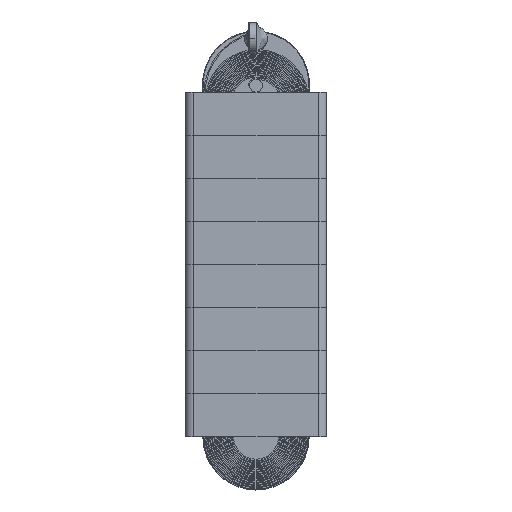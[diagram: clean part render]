
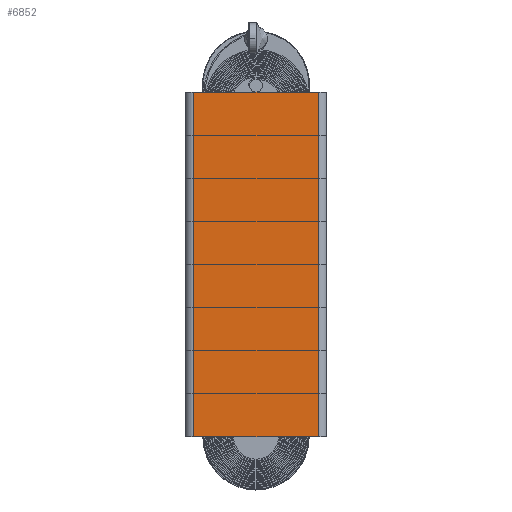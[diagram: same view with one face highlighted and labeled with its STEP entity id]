
A CAD part, top view. The second image highlights one B-rep face of the part: STEP entity #6852.
In plain terms, the highlighted planar face has unit normal (0, 0, 1).
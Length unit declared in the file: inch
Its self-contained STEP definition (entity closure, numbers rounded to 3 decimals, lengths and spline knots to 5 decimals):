
#550 = VERTEX_POINT ( 'NONE', #15831 ) ;
#1034 = DIRECTION ( 'NONE',  ( 1., 0., 0. ) ) ;
#1240 = CARTESIAN_POINT ( 'NONE',  ( -1.994, -5.5, 1.839 ) ) ;
#1337 = PLANE ( 'NONE',  #10426 ) ;
#1922 = CARTESIAN_POINT ( 'NONE',  ( 1.994, -5.5, 1.839 ) ) ;
#2125 = VECTOR ( 'NONE', #28513, 39.37008 ) ;
#2209 = EDGE_CURVE ( 'NONE', #13538, #7280, #14192, .T. ) ;
#3744 = CARTESIAN_POINT ( 'NONE',  ( -1.994, -5.5, 1.839 ) ) ;
#6116 = DIRECTION ( 'NONE',  ( 0., 0., 1. ) ) ;
#6852 = ADVANCED_FACE ( 'NONE', ( #26791 ), #1337, .T. ) ;
#7280 = VERTEX_POINT ( 'NONE', #18082 ) ;
#10426 = AXIS2_PLACEMENT_3D ( 'NONE', #3744, #6116, #1034 ) ;
#10674 = LINE ( 'NONE', #1240, #26796 ) ;
#11604 = EDGE_CURVE ( 'NONE', #25637, #550, #14858, .T. ) ;
#13538 = VERTEX_POINT ( 'NONE', #15164 ) ;
#13899 = DIRECTION ( 'NONE',  ( 0., 1., 0. ) ) ;
#14012 = VECTOR ( 'NONE', #29551, 39.37008 ) ;
#14192 = LINE ( 'NONE', #18382, #19039 ) ;
#14858 = LINE ( 'NONE', #1922, #2125 ) ;
#15164 = CARTESIAN_POINT ( 'NONE',  ( -1.994, -5.5, 1.839 ) ) ;
#15568 = EDGE_CURVE ( 'NONE', #7280, #550, #20356, .T. ) ;
#15831 = CARTESIAN_POINT ( 'NONE',  ( 1.994, 5.5, 1.839 ) ) ;
#16398 = EDGE_LOOP ( 'NONE', ( #29086, #19305, #21245, #27050 ) ) ;
#17654 = CARTESIAN_POINT ( 'NONE',  ( -1.994, 5.5, 1.839 ) ) ;
#18082 = CARTESIAN_POINT ( 'NONE',  ( -1.994, 5.5, 1.839 ) ) ;
#18382 = CARTESIAN_POINT ( 'NONE',  ( -1.994, -5.5, 1.839 ) ) ;
#19039 = VECTOR ( 'NONE', #13899, 39.37008 ) ;
#19305 = ORIENTED_EDGE ( 'NONE', *, *, #15568, .F. ) ;
#20356 = LINE ( 'NONE', #17654, #14012 ) ;
#21245 = ORIENTED_EDGE ( 'NONE', *, *, #2209, .F. ) ;
#22711 = DIRECTION ( 'NONE',  ( 1., 0., 0. ) ) ;
#25637 = VERTEX_POINT ( 'NONE', #30584 ) ;
#26791 = FACE_OUTER_BOUND ( 'NONE', #16398, .T. ) ;
#26796 = VECTOR ( 'NONE', #22711, 39.37008 ) ;
#27050 = ORIENTED_EDGE ( 'NONE', *, *, #29753, .T. ) ;
#28513 = DIRECTION ( 'NONE',  ( 0., 1., 0. ) ) ;
#29086 = ORIENTED_EDGE ( 'NONE', *, *, #11604, .T. ) ;
#29551 = DIRECTION ( 'NONE',  ( 1., 0., 0. ) ) ;
#29753 = EDGE_CURVE ( 'NONE', #13538, #25637, #10674, .T. ) ;
#30584 = CARTESIAN_POINT ( 'NONE',  ( 1.994, -5.5, 1.839 ) ) ;
